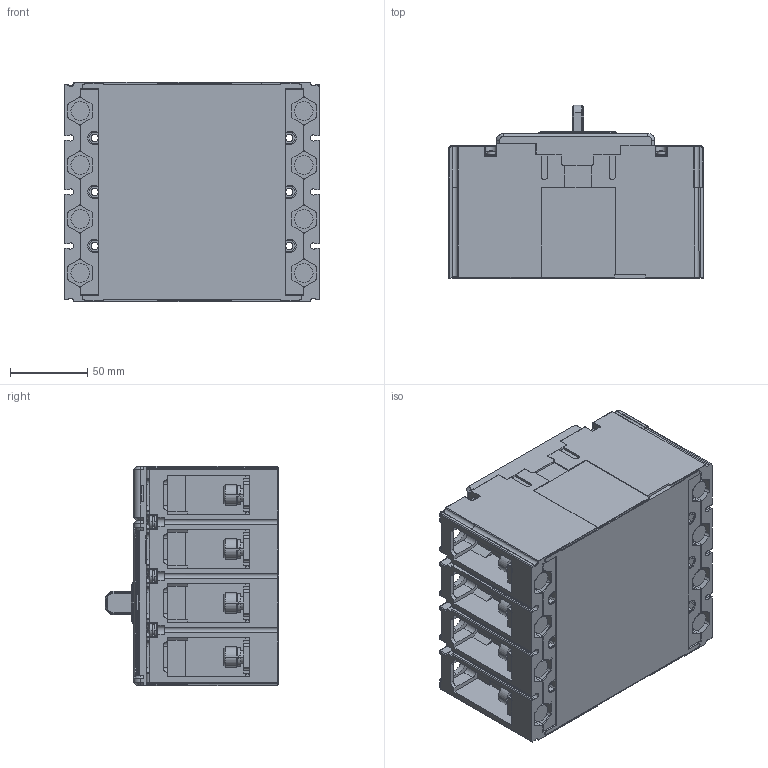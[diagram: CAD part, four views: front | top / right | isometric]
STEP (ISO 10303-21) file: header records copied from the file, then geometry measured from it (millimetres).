
FILE_DESCRIPTION((''),'2;1');
FILE_NAME('CDM6EI-250_4P_ASM','2019-07-18T',('gang.sun'),(''),'PRO/ENGINEER BY PARAMETRIC TECHNOLOGY CORPORATION, 2015440','PRO/ENGINEER BY PARAMETRIC TECHNOLOGY CORPORATION, 2015440','');
FILE_SCHEMA(('CONFIG_CONTROL_DESIGN'));
Products named in the file (12): MSBR-11; MSBR-10; PRT0001; PRT0002; PRT0003; PRT0004; PRT0005; PRT0006; PRT0007; PRT0008; PRT0009; CDM6EI-250_4P_ASM
Assembly tree (11 placements, depth 2):
  CDM6EI-250_4P_ASM
    MSBR-11
    MSBR-10
    PRT0001
    PRT0002
    PRT0003
    PRT0004
    PRT0005
    PRT0006
    PRT0007
    PRT0008
    PRT0009
Bounding box: 165 x 112.41 x 142 mm (x, y, z)
Volume: 1730865.6 mm3; surface area: 238472.7 mm2
Topology: 11 solids, 25 shells, 4382 faces, 11864 edges, 7499 vertices
Faces by surface type: plane 2441, cylinder 1223, cone 242, extrusion 158, sphere 145, torus 127, bspline 46
Entity records: 141602 total; most frequent: CARTESIAN_POINT 30285, ORIENTED_EDGE 23462, DIRECTION 23189, EDGE_CURVE 11731, AXIS2_PLACEMENT_3D 7812, VECTOR 7565, VERTEX_POINT 7499, LINE 7407
